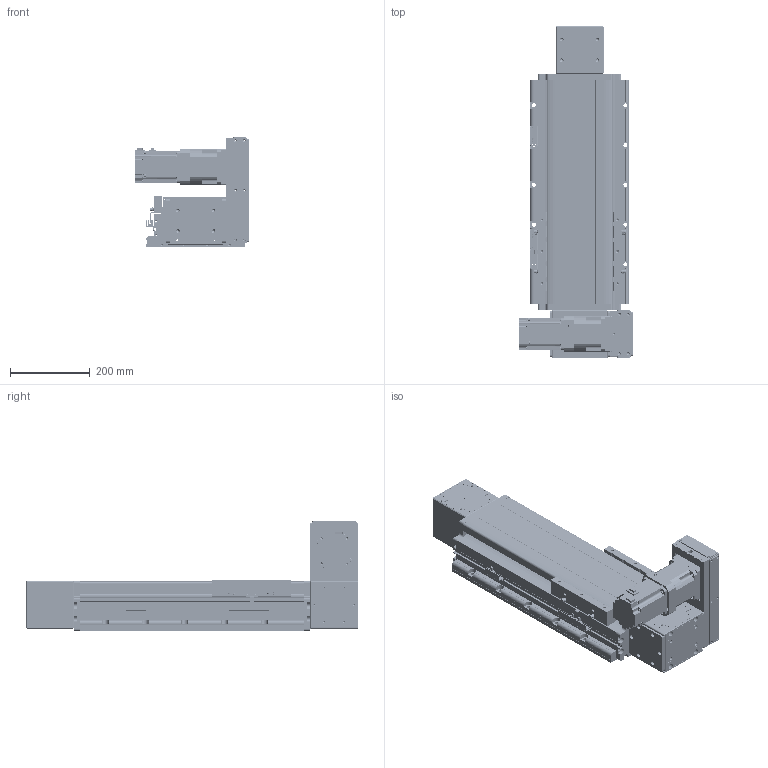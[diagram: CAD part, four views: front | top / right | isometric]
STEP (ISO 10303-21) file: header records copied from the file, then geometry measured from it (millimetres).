
FILE_DESCRIPTION(/* description */ (''),/* implementation_level */ '2;1');
FILE_NAME(/* name */ '\\192.168.0.160\disk1\HAN SHIN Master\B-설계부문\C-표준\B-2024년\BC02-표준도면\+로봇 개선표준도면\홈페이지 표준 도면\홈페이지 최종 작업 폴더\3D\HSB\HSB210\UR\HSB210-UR7G-N-0300-L.stp',/* time_stamp */ '2025-06-19T09:24:40+09:00',/* author */ ('user'),/* organization */ (''),/* preprocessor_version */ 'ST-DEVELOPER v18.1',/* originating_system */ 'Autodesk Inventor 2022',/* authorisation */ '');
FILE_SCHEMA (('AUTOMOTIVE_DESIGN { 1 0 10303 214 3 1 1 }'));
Products named in the file (37): HSB210-UR7G-N-0500-L; HSB210 BASE - 2000ST; HSB210 FORNT HOUSUNG-Connecting Shaft; HSB210 FRONT COVER; REAR HOUSUNG-1-R1; HSB160 ARC COVER; HSB160 REAR SHAFT-2; REAR SHAFT--2; 6004ZZ; 6004ZZ Outer ring; 6004ZZ Shield1; 6004ZZ Inner ring; 6004ZZ Ball; 6004ZZ Shield2; UPCOVER; SIDE COVER; hsr_ftht_A-M6F_grease_nipple_joint; NIPPLE CAP(신규); TENSION PLATE; HG90STOPPER - 27L; HSB210 TABLE (TEST); HSB160 BEARING OVER; HSB210 END COVER-1; HSB160 SHAFT-1; 6308ZZ; HR200 SENSOR DOG; SENSOR BRK(EE-SX674A); EE_SX674A; hg-kr73_; PGX90-H-1_3; HSB210 U MOTOR PLATE ASSY; HSB210 D BELT COVER-R1; HG200DACRYLCOVER003; 750W MOTOR PLATE; HSB210 U BELT COVER; HG200DACRYLCOVER001; HG200DACRYLCOVER002
Assembly tree (70 placements, depth 3):
  HSB210-UR7G-N-0500-L
    HSB210 BASE - 2000ST
    HSB210 FRONT COVER  x2
    HSB210 FORNT HOUSUNG-Connecting Shaft
    HSB160 ARC COVER  x4
    REAR HOUSUNG-1-R1
    HSB160 REAR SHAFT-2
    REAR SHAFT--2
    6004ZZ  x2
      6004ZZ Outer ring
      6004ZZ Shield1
      6004ZZ Inner ring
      6004ZZ Ball
      6004ZZ Shield2
    TENSION PLATE  x2
    UPCOVER
    SIDE COVER  x2
    HG90STOPPER - 27L  x4
    NIPPLE CAP(신규)  x4
    hsr_ftht_A-M6F_grease_nipple_joint  x4
    HSB210 TABLE (TEST)
    HSB160 BEARING OVER
    HSB210 END COVER-1
    HSB160 SHAFT-1
    6308ZZ  x2
    SENSOR BRK(EE-SX674A)  x3
    EE_SX674A  x3
    HR200 SENSOR DOG
    hg-kr73_
    PGX90-H-1_3
    HSB210 U MOTOR PLATE ASSY
      HSB210 D BELT COVER-R1
      HG200DACRYLCOVER003
      750W MOTOR PLATE
      HSB210 U BELT COVER
      HG200DACRYLCOVER001
      HG200DACRYLCOVER002  x2
Bounding box: 284.5 x 834 x 278.5 mm (x, y, z)
Volume: 10158922.7 mm3; surface area: 2351462.2 mm2
Topology: 131 solids, 133 shells, 7889 faces, 21913 edges, 14477 vertices
Faces by surface type: plane 5961, cylinder 1380, cone 380, sphere 84, torus 59, bspline 25
Full cylindrical faces by diameter (mm): 2.013 x2, 2.459 x50, 3 x8, 3.2 x4, 3.242 x48, 3.4 x22, 3.5 x6, 4.134 x2, 4.2 x16, 4.5 x36, 4.917 x36, 5 x56, 5.1 x1, 5.5 x13, 5.6 x4, 5.9 x4, 6 x15, 6.5 x9, 6.6 x8, 6.647 x40, 6.8 x9, 7 x20, 7.6 x4, 8 x13, 8.433 x2, 9 x46, 9.5 x7, 10 x5, 10.106 x10, 11 x20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
Entity records: 171016 total; most frequent: CARTESIAN_POINT 33370, ORIENTED_EDGE 28512, DIRECTION 27256, EDGE_CURVE 14256, LINE 11148, VECTOR 11148, VERTEX_POINT 9502, AXIS2_PLACEMENT_3D 8054
